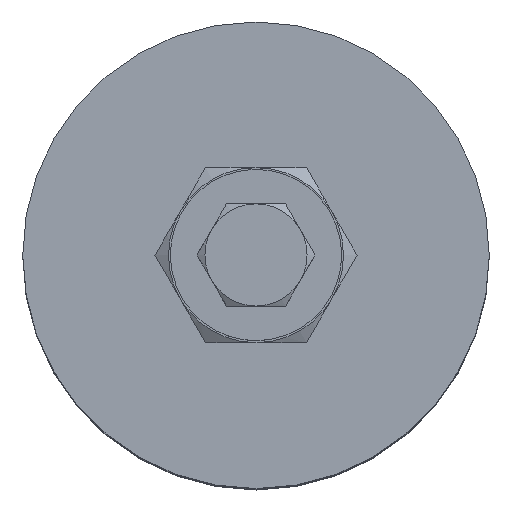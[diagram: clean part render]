
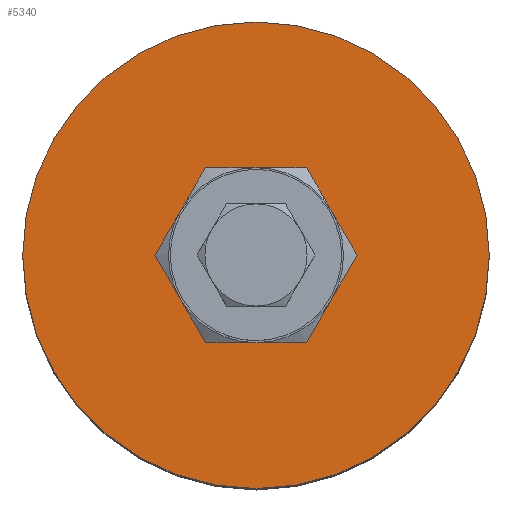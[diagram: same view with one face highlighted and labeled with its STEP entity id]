
A CAD part, top view. The second image highlights one B-rep face of the part: STEP entity #5340.
In plain terms, the highlighted planar face has unit normal (0, 0, 1).
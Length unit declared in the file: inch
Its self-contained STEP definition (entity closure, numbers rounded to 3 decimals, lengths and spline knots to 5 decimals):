
#351=FACE_BOUND('',#821,.T.);
#417=CIRCLE('',#5667,1.);
#418=CIRCLE('',#5668,0.28125);
#503=FACE_OUTER_BOUND('',#820,.T.);
#820=EDGE_LOOP('',(#3373));
#821=EDGE_LOOP('',(#3374));
#2121=VERTEX_POINT('',#7121);
#2122=VERTEX_POINT('',#7123);
#2622=EDGE_CURVE('',#2121,#2121,#417,.T.);
#2623=EDGE_CURVE('',#2122,#2122,#418,.T.);
#3373=ORIENTED_EDGE('',*,*,#2622,.T.);
#3374=ORIENTED_EDGE('',*,*,#2623,.F.);
#4827=PLANE('',#5666);
#5340=ADVANCED_FACE('',(#503,#351),#4827,.T.);
#5666=AXIS2_PLACEMENT_3D('',#7120,#6015,#6016);
#5667=AXIS2_PLACEMENT_3D('',#7122,#6017,#6018);
#5668=AXIS2_PLACEMENT_3D('',#7124,#6019,#6020);
#6015=DIRECTION('center_axis',(0.,0.,
1.));
#6016=DIRECTION('ref_axis',(1.,0.,0.));
#6017=DIRECTION('center_axis',(0.,0.,
1.));
#6018=DIRECTION('ref_axis',(1.,0.,0.));
#6019=DIRECTION('center_axis',(0.,0.,
1.));
#6020=DIRECTION('ref_axis',(1.,0.,0.));
#7120=CARTESIAN_POINT('Origin',(0.64063,0.,3.4375));
#7121=CARTESIAN_POINT('',(1.,0.,3.4375));
#7122=CARTESIAN_POINT('Origin',(0.,0.,
3.4375));
#7123=CARTESIAN_POINT('',(0.28125,0.,3.4375));
#7124=CARTESIAN_POINT('Origin',(0.,0.,
3.4375));
